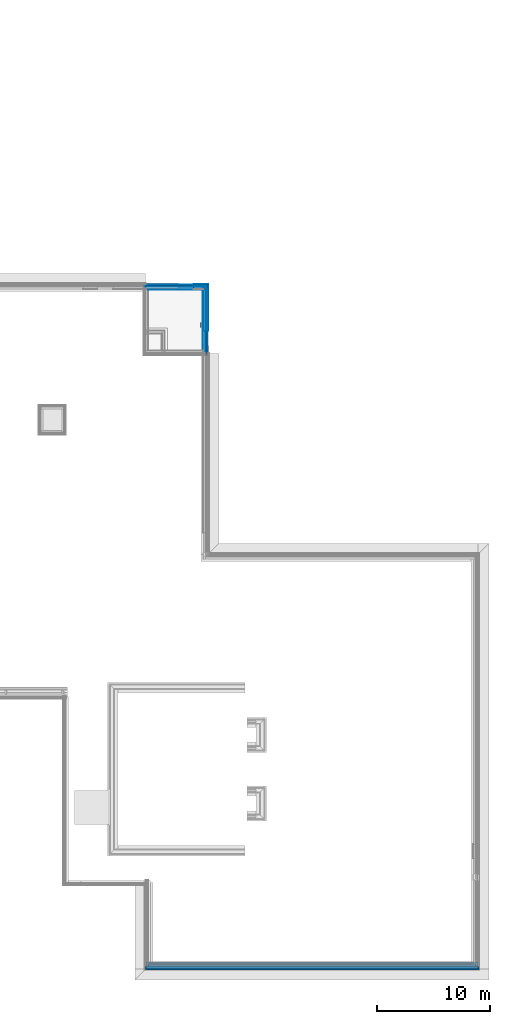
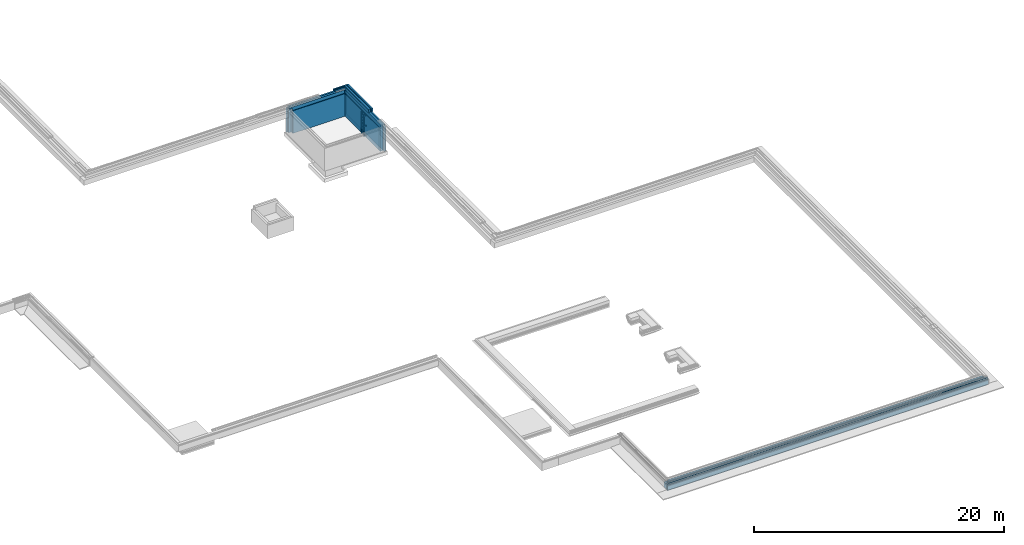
# One storey, part 8 of 17: 29 building element parts, 1 discrete accessory, 5 elements without a shape of their own.
"""IFC2X3 building model written with IfcOpenShell, lengths in millimetres."""

from ifc_helpers import new_model, entity, si_unit, converted_unit, derived_unit, money_unit, direction, frame, origin_with_axes, place, context, subcontext, project, spatial, faceted_brep, material, type_object, element, aggregate, save


model = new_model("IFC2X3")

# Units and contexts
model_context = context("Model", 3, precision=0.01, world=origin_with_axes(), true_north=direction((0.0, 1.0)))
body_context = subcontext(model_context, "Body", "Model", "MODEL_VIEW")
ifc_project = project(units=[si_unit("LENGTHUNIT", "METRE", prefix="MILLI"), si_unit("AREAUNIT", "SQUARE_METRE"), si_unit("VOLUMEUNIT", "CUBIC_METRE"), converted_unit("PLANEANGLEUNIT", "DEGREE", entity("IfcPlaneAngleMeasure", 0.0174532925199), si_unit("PLANEANGLEUNIT", "RADIAN"), dimensions=[0, 0, 0, 0, 0, 0, 0]), money_unit("EUR"), converted_unit("TIMEUNIT", "Year", entity("IfcTimeMeasure", 31556926.0), si_unit("TIMEUNIT", "SECOND"), dimensions=[0, 0, 1, 0, 0, 0, 0]), si_unit("MASSUNIT", "GRAM", prefix="KILO"), si_unit("THERMODYNAMICTEMPERATUREUNIT", "DEGREE_CELSIUS"), si_unit("LUMINOUSINTENSITYUNIT", "LUMEN"), si_unit("ENERGYUNIT", "JOULE", prefix="MEGA"), derived_unit("THERMALCONDUCTANCEUNIT", [(si_unit("POWERUNIT", "WATT"), 1), (si_unit("LENGTHUNIT", "METRE"), -1), (si_unit("THERMODYNAMICTEMPERATUREUNIT", "KELVIN"), -1)]), derived_unit("SPECIFICHEATCAPACITYUNIT", [(si_unit("ENERGYUNIT", "JOULE"), 1), (si_unit("MASSUNIT", "GRAM", prefix="KILO"), -1), (si_unit("THERMODYNAMICTEMPERATUREUNIT", "KELVIN"), -1)]), derived_unit("MASSDENSITYUNIT", [(si_unit("MASSUNIT", "GRAM", prefix="KILO"), 1), (si_unit("VOLUMEUNIT", "CUBIC_METRE"), -1)])], contexts=[model_context])

# Site, building, storey
site_placement = place(None, origin_with_axes())
site = spatial("IfcSite", under=ifc_project, at=site_placement, Name="Kolde pst 67a", CompositionType="ELEMENT")
building_placement = place(site_placement, origin_with_axes())
building = spatial("IfcBuilding", under=site, at=building_placement, Name="Riigigümnaasium", CompositionType="ELEMENT")
storey_placement = place(building_placement, frame((0.0, 0.0, -1500.0), z_axis=(0.0, 0.0, 1.0), x_axis=(1.0, 0.0, 0.0)))
storey = spatial("IfcBuildingStorey", under=building, at=storey_placement, Name="Vundament", CompositionType="ELEMENT", Elevation=-1500.0)

# Discrete accessory
discrete_accessory_type = type_object("IfcDiscreteAccessoryType", Name="Wall Mounted Ladder 25")
discrete_accessory_placement = place(storey_placement, frame((60187.0260771, 57040.02027, -1065.2), z_axis=(0.0, 0.0, 1.0), x_axis=(-1.4546746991e-06, -0.999999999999, 0.0)))
element("IfcDiscreteAccessory", 1, at=discrete_accessory_placement, inside=storey, type_object=discrete_accessory_type, Name="Seinaredel", context=body_context, shape_type="Brep", body=[
    faceted_brep([(270.8, 0.0, 101.6), (270.8, 0.0, 203.2), (270.8, -12.7, 203.2), (270.8, -12.7, 101.6), (220.0, 0.0, 101.6), (220.0, 0.0, 203.2), (220.0, -215.9, 203.2), (232.7, -215.9, 203.2), (232.7, -12.7, 203.2), (232.7, -12.7, 101.6), (232.7, -215.9, 101.6), (220.0, -215.9, 101.6)], [[[0, 1, 2, 3]], [[4, 5, 1, 0]], [[1, 5, 6, 7, 8, 2]], [[3, 2, 8, 9]], [[0, 3, 9, 10, 11, 4]], [[11, 6, 5, 4]], [[10, 7, 6, 11]], [[9, 8, 7, 10]]]),
    faceted_brep([(270.8, 0.0, 1094.6), (270.8, 0.0, 1196.2), (270.8, -12.7, 1196.2), (270.8, -12.7, 1094.6), (220.0, 0.0, 1094.6), (220.0, 0.0, 1196.2), (220.0, -215.9, 1196.2), (232.7, -215.9, 1196.2), (232.7, -12.7, 1196.2), (232.7, -12.7, 1094.6), (232.7, -215.9, 1094.6), (220.0, -215.9, 1094.6)], [[[0, 1, 2, 3]], [[4, 5, 1, 0]], [[1, 5, 6, 7, 8, 2]], [[3, 2, 8, 9]], [[0, 3, 9, 10, 11, 4]], [[11, 6, 5, 4]], [[10, 7, 6, 11]], [[9, 8, 7, 10]]]),
    faceted_brep([(270.8, 0.0, 2087.6), (270.8, 0.0, 2189.2), (270.8, -12.7, 2189.2), (270.8, -12.7, 2087.6), (220.0, 0.0, 2087.6), (220.0, 0.0, 2189.2), (220.0, -215.9, 2189.2), (232.7, -215.9, 2189.2), (232.7, -12.7, 2189.2), (232.7, -12.7, 2087.6), (232.7, -215.9, 2087.6), (220.0, -215.9, 2087.6)], [[[0, 1, 2, 3]], [[4, 5, 1, 0]], [[1, 5, 6, 7, 8, 2]], [[3, 2, 8, 9]], [[0, 3, 9, 10, 11, 4]], [[11, 6, 5, 4]], [[10, 7, 6, 11]], [[9, 8, 7, 10]]]),
    faceted_brep([(-220.0, 0.0, 101.6), (-220.0, 0.0, 203.2), (-220.0, -215.9, 203.2), (-220.0, -215.9, 101.6), (-270.8, 0.0, 101.6), (-270.8, 0.0, 203.2), (-270.8, -12.7, 203.2), (-232.7, -12.7, 203.2), (-232.7, -215.9, 203.2), (-232.7, -215.9, 101.6), (-232.7, -12.7, 101.6), (-270.8, -12.7, 101.6)], [[[0, 1, 2, 3]], [[4, 5, 1, 0]], [[1, 5, 6, 7, 8, 2]], [[3, 2, 8, 9]], [[0, 3, 9, 10, 11, 4]], [[11, 6, 5, 4]], [[10, 7, 6, 11]], [[9, 8, 7, 10]]]),
    faceted_brep([(-220.0, 0.0, 1094.6), (-220.0, 0.0, 1196.2), (-220.0, -215.9, 1196.2), (-220.0, -215.9, 1094.6), (-270.8, 0.0, 1094.6), (-270.8, 0.0, 1196.2), (-270.8, -12.7, 1196.2), (-232.7, -12.7, 1196.2), (-232.7, -215.9, 1196.2), (-232.7, -215.9, 1094.6), (-232.7, -12.7, 1094.6), (-270.8, -12.7, 1094.6)], [[[0, 1, 2, 3]], [[4, 5, 1, 0]], [[1, 5, 6, 7, 8, 2]], [[3, 2, 8, 9]], [[0, 3, 9, 10, 11, 4]], [[11, 6, 5, 4]], [[10, 7, 6, 11]], [[9, 8, 7, 10]]]),
    faceted_brep([(-220.0, 0.0, 2087.6), (-220.0, 0.0, 2189.2), (-220.0, -215.9, 2189.2), (-220.0, -215.9, 2087.6), (-270.8, 0.0, 2087.6), (-270.8, 0.0, 2189.2), (-270.8, -12.7, 2189.2), (-232.7, -12.7, 2189.2), (-232.7, -215.9, 2189.2), (-232.7, -215.9, 2087.6), (-232.7, -12.7, 2087.6), (-270.8, -12.7, 2087.6)], [[[0, 1, 2, 3]], [[4, 5, 1, 0]], [[1, 5, 6, 7, 8, 2]], [[3, 2, 8, 9]], [[0, 3, 9, 10, 11, 4]], [[11, 6, 5, 4]], [[10, 7, 6, 11]], [[9, 8, 7, 10]]]),
    faceted_brep([(220.0, -215.9, 203.2), (220.0, -215.9, 2341.6), (207.3, -215.9, 2341.6), (207.3, -215.9, 203.2), (220.0, -139.7, 203.2), (220.0, -139.7, 2341.6), (207.3, -139.7, 2341.6), (207.3, -139.7, 203.2)], [[[0, 1, 2, 3]], [[4, 5, 1, 0]], [[1, 5, 6, 2]], [[3, 2, 6, 7]], [[0, 3, 7, 4]], [[7, 6, 5, 4]]]),
    faceted_brep([(-220.0, -139.7, 203.2), (-220.0, -139.7, 2341.6), (-207.3, -139.7, 2341.6), (-207.3, -139.7, 203.2), (-220.0, -215.9, 203.2), (-220.0, -215.9, 2341.6), (-207.3, -215.9, 2341.6), (-207.3, -215.9, 203.2)], [[[0, 1, 2, 3]], [[4, 5, 1, 0]], [[1, 5, 6, 2]], [[3, 2, 6, 7]], [[0, 3, 7, 4]], [[7, 6, 5, 4]]]),
    faceted_brep([(-207.3, -196.85, 371.6), (-207.3, -196.85, 401.6), (-207.3, -158.75, 401.6), (-207.3, -158.75, 371.6), (207.3, -196.85, 371.6), (207.3, -196.85, 401.6), (207.3, -158.75, 401.6), (207.3, -158.75, 371.6)], [[[0, 1, 2, 3]], [[4, 5, 1, 0]], [[1, 5, 6, 2]], [[3, 2, 6, 7]], [[0, 3, 7, 4]], [[7, 6, 5, 4]]]),
    faceted_brep([(-207.3, -196.85, 671.6), (-207.3, -196.85, 701.6), (-207.3, -158.75, 701.6), (-207.3, -158.75, 671.6), (207.3, -196.85, 671.6), (207.3, -196.85, 701.6), (207.3, -158.75, 701.6), (207.3, -158.75, 671.6)], [[[0, 1, 2, 3]], [[4, 5, 1, 0]], [[1, 5, 6, 2]], [[3, 2, 6, 7]], [[0, 3, 7, 4]], [[7, 6, 5, 4]]]),
    faceted_brep([(-207.3, -196.85, 971.6), (-207.3, -196.85, 1001.6), (-207.3, -158.75, 1001.6), (-207.3, -158.75, 971.6), (207.3, -196.85, 971.6), (207.3, -196.85, 1001.6), (207.3, -158.75, 1001.6), (207.3, -158.75, 971.6)], [[[0, 1, 2, 3]], [[4, 5, 1, 0]], [[1, 5, 6, 2]], [[3, 2, 6, 7]], [[0, 3, 7, 4]], [[7, 6, 5, 4]]]),
    faceted_brep([(-207.3, -196.85, 1271.6), (-207.3, -196.85, 1301.6), (-207.3, -158.75, 1301.6), (-207.3, -158.75, 1271.6), (207.3, -196.85, 1271.6), (207.3, -196.85, 1301.6), (207.3, -158.75, 1301.6), (207.3, -158.75, 1271.6)], [[[0, 1, 2, 3]], [[4, 5, 1, 0]], [[1, 5, 6, 2]], [[3, 2, 6, 7]], [[0, 3, 7, 4]], [[7, 6, 5, 4]]]),
    faceted_brep([(-207.3, -196.85, 1571.6), (-207.3, -196.85, 1601.6), (-207.3, -158.75, 1601.6), (-207.3, -158.75, 1571.6), (207.3, -196.85, 1571.6), (207.3, -196.85, 1601.6), (207.3, -158.75, 1601.6), (207.3, -158.75, 1571.6)], [[[0, 1, 2, 3]], [[4, 5, 1, 0]], [[1, 5, 6, 2]], [[3, 2, 6, 7]], [[0, 3, 7, 4]], [[7, 6, 5, 4]]]),
    faceted_brep([(-207.3, -196.85, 1871.6), (-207.3, -196.85, 1901.6), (-207.3, -158.75, 1901.6), (-207.3, -158.75, 1871.6), (207.3, -196.85, 1871.6), (207.3, -196.85, 1901.6), (207.3, -158.75, 1901.6), (207.3, -158.75, 1871.6)], [[[0, 1, 2, 3]], [[4, 5, 1, 0]], [[1, 5, 6, 2]], [[3, 2, 6, 7]], [[0, 3, 7, 4]], [[7, 6, 5, 4]]]),
    faceted_brep([(-207.3, -196.85, 2171.6), (-207.3, -196.85, 2201.6), (-207.3, -158.75, 2201.6), (-207.3, -158.75, 2171.6), (207.3, -196.85, 2171.6), (207.3, -196.85, 2201.6), (207.3, -158.75, 2201.6), (207.3, -158.75, 2171.6)], [[[0, 1, 2, 3]], [[4, 5, 1, 0]], [[1, 5, 6, 2]], [[3, 2, 6, 7]], [[0, 3, 7, 4]], [[7, 6, 5, 4]]]),
])

# Wall, building element parts
wall_type_1 = type_object("IfcWallType", Name="Lintvundament 1602 x 765", PredefinedType="NOTDEFINED")
wall_1_placement = place(storey_placement, frame((55370.0096858, 40.0, 1479.99999851), z_axis=(0.0, 0.0, 1.0), x_axis=(1.0, 0.0, 0.0)))
wall_1 = element("IfcWall", 2, at=wall_1_placement, inside=storey, type_object=wall_type_1, Name="Vundament")
ifc_material_1 = material(Name="_KANDETARIND - monoliitne raudbetoon vastavalt EK osale")
building_element_part_1_placement = place(wall_1_placement, origin_with_axes())
building_element_part_1 = element("IfcBuildingElementPart", 3, at=building_element_part_1_placement, material=ifc_material_1, Name="_KANDETARIND - monoliitne raudbetoon vastavalt EK osale", context=body_context, shape_type="Brep", body=[
    faceted_brep([(-200.056688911, -200.057444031, -750.0), (-200.056688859, -200.057444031, -250.000008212), (-200.05743754, 0.0, -250.000004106), (-200.058186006, 200.0, -250.000004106), (-200.058934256, 399.942555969, -250.000008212), (-200.058934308, 399.942555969, -750.0), (29270.0470797, -200.057444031, -750.0), (29270.0470797, -200.057444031, -250.000008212), (29270.0470797, 0.0, -250.000004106), (29270.0470797, 200.0, -250.000004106), (29069.9896421, 200.0, -250.0), (29069.9896421, 0.0, -250.0), (0.0, 0.0, -250.0), (-0.000748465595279, 200.0, -250.0), (29270.0470797, 399.942555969, -250.000008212), (29270.0470797, 399.942555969, -750.0), (29069.9896421, 0.0, 3.12383896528e-07), (29069.9896421, 200.0, 3.12383841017e-07), (0.0, 0.0, -2.22441065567e-06), (-0.000748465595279, 200.0, -2.22441065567e-06)], [[[0, 1, 2, 3, 4, 5]], [[1, 0, 6, 7]], [[2, 1, 7, 8, 9, 10, 11, 12, 13, 3]], [[3, 13, 10, 9, 14, 4]], [[5, 4, 14, 15]], [[0, 5, 15, 6]], [[7, 6, 15, 14, 9, 8]], [[16, 11, 10, 17]], [[12, 11, 16, 18]], [[13, 12, 18, 19]], [[13, 19, 17, 10]], [[19, 18, 16, 17]]]),
])
ifc_material_2 = material(Name="_SOOJUSTUS - ekstrudeeritud polüstüreenist plaadid XPS 250, survetugevus min 250kPa, soojuserijuhtivus λD<0,036 W/(mK), veeimavus alla 0,2%, näiteks XPS 250 foam SL või samaväärne")
building_element_part_2_placement = place(wall_1_placement, origin_with_axes())
building_element_part_2 = element("IfcBuildingElementPart", 4, at=building_element_part_2_placement, material=ifc_material_2, Name="_SOOJUSTUS - ekstrudeeritud polüstüreenist plaadid XPS 250, survetugevus min 250kPa, soojuserijuhtivus λD<0,036 W/(mK), veeimavus alla 0,2%, näiteks XPS 250 foam SL või samaväärne", context=body_context, shape_type="Brep", body=[
    faceted_brep([(-72.9997281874, -73.0000017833, -146.999999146), (-72.9999901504, -3.00000241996, -146.999999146), (29142.9896435, -3.00000241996, -146.999999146), (29142.9896435, -73.0000017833, -146.999999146), (-72.9997281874, -73.0000017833, -2.23078108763e-06), (-72.9999901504, -3.00000241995, -2.23078108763e-06), (29142.9896435, -3.00000241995, -2.23078100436e-06), (29142.9896435, -73.0000017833, -2.23078100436e-06)], [[[0, 1, 2, 3]], [[4, 5, 1, 0]], [[1, 5, 6, 2]], [[7, 3, 2, 6]], [[0, 3, 7, 4]], [[5, 4, 7, 6]]]),
])
ifc_material_3 = material(Name="_SOOJUSTUS - vahtpolüstüreenplaadid EPS 120 Perimeeter, survetugevus min 120kPa, veeimavus <2%, soojuserijuhtivus λD<0,036 W/(mK)")
building_element_part_3_placement = place(wall_1_placement, origin_with_axes())
building_element_part_3 = element("IfcBuildingElementPart", 5, at=building_element_part_3_placement, material=ifc_material_3, Name="_SOOJUSTUS - vahtpolüstüreenplaadid EPS 120 Perimeeter, survetugevus min 120kPa, veeimavus <2%, soojuserijuhtivus λD<0,036 W/(mK)", context=body_context, shape_type="Brep", body=[
    faceted_brep([(-222.99916736, -223.000000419, -146.999999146), (-222.99972871, -73.0000013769, -146.999999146), (29292.9896437, -73.0000013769, -146.999999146), (29292.9896437, -223.000000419, -146.999999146), (-222.999166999, -223.000000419, -1.37334281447e-06), (-222.999728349, -73.0000013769, -1.37334281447e-06), (29292.9896437, -73.0000013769, -1.37334278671e-06), (29292.9896437, -223.000000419, -1.37334278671e-06)], [[[0, 1, 2, 3]], [[0, 4, 5, 1]], [[1, 5, 6, 2]], [[7, 3, 2, 6]], [[4, 0, 3, 7]], [[5, 4, 7, 6]]]),
])
building_element_part_4_placement = place(wall_1_placement, origin_with_axes())
building_element_part_4 = element("IfcBuildingElementPart", 6, at=building_element_part_4_placement, material=ifc_material_3, Name="_SOOJUSTUS - vahtpolüstüreenplaadid EPS 120 Perimeeter, survetugevus min 120kPa, veeimavus <2%, soojuserijuhtivus λD<0,036 W/(mK)", context=body_context, shape_type="Brep", body=[
    faceted_brep([(29373.0470827, -303.057446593, -146.999992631), (29373.0470827, -3.00000241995, -146.999992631), (-303.057429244, -3.00000241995, -146.999992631), (-303.056306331, -303.057446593, -146.999992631), (29373.0470827, -3.00000241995, -247.000001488), (29373.0470827, -303.057446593, -247.000001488), (-303.057429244, -3.00000241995, -247.000001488), (-303.056306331, -303.057446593, -247.000001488)], [[[0, 1, 2, 3]], [[4, 1, 0, 5]], [[1, 4, 6, 2]], [[7, 3, 2, 6]], [[5, 0, 3, 7]], [[4, 5, 7, 6]]]),
])
ifc_material_4 = material(Name="_HÜDROISOLATSIOON - Bituumenvõõp COMBIFLEX-EL vastavalt TL2 nõuetele")
building_element_part_5_placement = place(wall_1_placement, origin_with_axes())
building_element_part_5 = element("IfcBuildingElementPart", 7, at=building_element_part_5_placement, material=ifc_material_4, Name="_HÜDROISOLATSIOON - Bituumenvõõp COMBIFLEX-EL vastavalt TL2 nõuetele", context=body_context, shape_type="Brep", body=[
    faceted_brep([(29072.9896446, -2.99999783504, -3.7612034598e-06), (29072.9896446, 0.0, -3.7612034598e-06), (-3.00000241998, 0.0, -3.7612034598e-06), (-2.999991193, -2.99999783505, -3.7612034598e-06), (29072.9896446, -2.99999783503, -247.000001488), (29072.9896446, 0.0, -247.000001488), (29273.0470862, 0.0, -247.000001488), (29273.0470862, 0.0, -250.000008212), (-203.057444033, 0.0, -250.000008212), (-203.057444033, 0.0, -247.000001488), (-3.00000241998, 0.0, -247.000001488), (-2.999991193, -2.99999783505, -247.000001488), (-203.057432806, -2.99999783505, -247.000001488), (-203.056684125, -203.057435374, -246.99999851), (29273.0470862, -203.057435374, -246.99999851), (29273.0470862, -2.99999783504, -247.000001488), (29273.0470862, -203.057435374, -729.999997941), (29273.0470766, -203.057435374, -750.000015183), (29273.0470766, -200.057437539, -750.000015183), (29273.0470862, -200.057437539, -250.000008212), (-203.056695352, -200.057437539, -250.000008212), (-203.056695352, -200.057437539, -729.999997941), (-203.056684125, -203.057435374, -729.999997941), (-203.056674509, -203.057435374, -750.000015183), (-203.056685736, -200.057437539, -750.000015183)], [[[0, 1, 2, 3]], [[1, 0, 4, 5]], [[1, 5, 6, 7, 8, 9, 10, 2]], [[2, 10, 11, 3]], [[0, 3, 11, 4]], [[11, 10, 9, 12, 13, 14, 15, 6, 5, 4]], [[6, 15, 14, 16, 17, 18, 19, 7]], [[7, 19, 20, 8]], [[20, 21, 22, 13, 12, 9, 8]], [[14, 13, 22, 16]], [[17, 16, 22, 23]], [[18, 17, 23, 24]], [[19, 18, 24, 21, 20]], [[21, 24, 23, 22]]]),
])
ifc_material_5 = material(Name="_TUULETÕKE - sokli krohv, silikoonvaikkrohv Weber.pas 481 AquaBalance 1mm \"scratch\" viimistlus, toon helehall CL444 (S 3502-Y) * 35, SILS süsteem, või samaväärne")
building_element_part_6_placement = place(wall_1_placement, origin_with_axes())
building_element_part_6 = element("IfcBuildingElementPart", 8, at=building_element_part_6_placement, material=ifc_material_5, Name="_TUULETÕKE - sokli krohv, silikoonvaikkrohv Weber.pas 481 AquaBalance 1mm \"scratch\" viimistlus, toon helehall CL444 (S 3502-Y) * 35, SILS süsteem, või samaväärne", context=body_context, shape_type="Brep", body=[
    faceted_brep([(-232.999130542, -233.000001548, -146.999999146), (-232.999167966, -223.000001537, -146.999999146), (29302.9896446, -223.000001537, -146.999999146), (29302.9896446, -233.000001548, -146.999999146), (-232.99914073, -233.000002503, -29.9999875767), (-232.99914073, -233.000001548, 3.32716632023e-07), (-232.999178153, -223.000001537, 3.32716632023e-07), (29302.9896548, -223.000001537, 3.32716632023e-07), (29302.9896548, -233.000001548, 3.32716632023e-07), (29302.9896548, -233.000002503, -29.9999875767)], [[[0, 1, 2, 3]], [[4, 5, 6, 1, 0]], [[1, 6, 7, 2]], [[8, 9, 3, 2, 7]], [[0, 3, 9, 4]], [[5, 4, 9, 8]], [[6, 5, 8, 7]]]),
])
ifc_material_6 = material(Name="_HÜDROISOLATSIOON - tsemendil baseeruv ühekomponentne hüdroisolatsioon hüdroisoleerimiseks sokli krohvi pealt, ülevärvitud silikoonvaikvärviga sokli krohvi tooni, Weber.tec 824 ja Weber.ton 411 AquaBalance toon CL444 (S 3502-Y) * 35 või samaväärne")
building_element_part_7_placement = place(wall_1_placement, origin_with_axes())
building_element_part_7 = element("IfcBuildingElementPart", 9, at=building_element_part_7_placement, material=ifc_material_6, Name="_HÜDROISOLATSIOON - tsemendil baseeruv ühekomponentne hüdroisolatsioon hüdroisoleerimiseks sokli krohvi pealt, ülevärvitud silikoonvaikvärviga sokli krohvi tooni, Weber.tec 824 ja Weber.ton 411 AquaBalance toon CL444 (S 3502-Y) * 35 või samaväärne", context=body_context, shape_type="Brep", body=[
    faceted_brep([(29304.9896356, -234.99999634, -29.9999946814), (29304.9896356, -233.000002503, -29.9999946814), (-234.999121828, -233.000002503, -29.9999946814), (-234.999114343, -234.99999634, -29.9999946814), (29304.9896356, -233.000002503, -146.999992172), (29304.9896356, -234.99999634, -146.999992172), (-234.999121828, -233.000002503, -146.999992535), (-234.999114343, -234.99999634, -146.999992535)], [[[0, 1, 2, 3]], [[4, 1, 0, 5]], [[1, 4, 6, 2]], [[7, 3, 2, 6]], [[5, 0, 3, 7]], [[4, 5, 7, 6]]]),
])
building_element_part_8_placement = place(wall_1_placement, origin_with_axes())
building_element_part_8 = element("IfcBuildingElementPart", 10, at=building_element_part_8_placement, material=ifc_material_3, Name="_SOOJUSTUS - vahtpolüstüreenplaadid EPS 120 Perimeeter, survetugevus min 120kPa, veeimavus <2%, soojuserijuhtivus λD<0,036 W/(mK)", context=body_context, shape_type="Brep", body=[
    faceted_brep([(29373.0470824, -303.057446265, -247.000001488), (29373.0470824, -203.057444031, -247.000001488), (-303.056680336, -203.057444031, -247.000001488), (-303.056306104, -303.057446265, -247.000001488), (29373.0470824, -203.057444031, -629.93015656), (29373.0470824, -303.057446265, -629.93015656), (-303.056680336, -203.057444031, -629.93015656), (-303.056306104, -303.057446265, -633.422236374), (29373.0472062, -303.057446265, -633.422240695)], [[[0, 1, 2, 3]], [[4, 1, 0, 5]], [[1, 4, 6, 2]], [[7, 3, 2, 6]], [[5, 0, 3, 7, 8]], [[4, 5, 8]], [[7, 6, 4, 8]]]),
])
aggregate(wall_1, [building_element_part_1, building_element_part_2, building_element_part_3, building_element_part_4, building_element_part_5, building_element_part_6, building_element_part_7, building_element_part_8])

wall_type_2 = type_object("IfcWallType", Name="VS-RB-20/2_sokkel  443", PredefinedType="NOTDEFINED")
wall_2_placement = place(storey_placement, frame((60439.9941222, 60440.0001843, 1480.0), z_axis=(0.0, 0.0, 1.0), x_axis=(-1.0, 0.0, 0.0)))
wall_2 = element("IfcWall", 11, at=wall_2_placement, inside=storey, type_object=wall_type_2, Name="Sokkel")
ifc_material_7 = material(Name="_KANDETARIND - monteeritav raudbetoon vastavalt EK osale")
building_element_part_9_placement = place(wall_2_placement, origin_with_axes())
building_element_part_9 = element("IfcBuildingElementPart", 12, at=building_element_part_9_placement, material=ifc_material_7, Name="_KANDETARIND - monteeritav raudbetoon vastavalt EK osale", context=body_context, shape_type="Brep", body=[
    faceted_brep([(1057.49980822, 200.0, 0.0), (1057.49980822, 0.0, 0.0), (0.0, 0.0, 0.0), (0.0, 200.0, 0.0), (1057.49980822, 200.0, 120.0), (1057.49980822, 0.0, 120.0), (0.0, 0.0, 120.0), (0.0, 200.0, 120.0)], [[[0, 1, 2, 3]], [[0, 4, 5, 1]], [[1, 5, 6, 2]], [[3, 2, 6, 7]], [[4, 0, 3, 7]], [[5, 4, 7, 6]]]),
])
ifc_material_8 = material(Name="_HÜDROISOLATSIOON - 3x SBS rullmaterjal vastavalt TL2 nõuetele, nakke tugevduseks betoonpind eelnevalt katta hüdroisolatsiooni bituumenvõõbaga")
building_element_part_10_placement = place(wall_2_placement, origin_with_axes())
building_element_part_10 = element("IfcBuildingElementPart", 13, at=building_element_part_10_placement, material=ifc_material_8, Name="_HÜDROISOLATSIOON - 3x SBS rullmaterjal vastavalt TL2 nõuetele, nakke tugevduseks betoonpind eelnevalt katta hüdroisolatsiooni bituumenvõõbaga", context=body_context, shape_type="Brep", body=[
    faceted_brep([(1057.49980822, 0.0, 0.0), (1057.49980822, -3.0, 0.0), (-3.0, -3.0, 0.0), (-3.0, 0.0, 0.0), (1057.49980822, 0.0, 120.0), (1057.49980822, -3.0, 120.0), (-3.0, -3.0, 120.0), (-3.0, 0.0, 120.0)], [[[0, 1, 2, 3]], [[0, 4, 5, 1]], [[1, 5, 6, 2]], [[3, 2, 6, 7]], [[4, 0, 3, 7]], [[5, 4, 7, 6]]]),
])
building_element_part_11_placement = place(wall_2_placement, origin_with_axes())
building_element_part_11 = element("IfcBuildingElementPart", 14, at=building_element_part_11_placement, material=ifc_material_2, Name="_SOOJUSTUS - ekstrudeeritud polüstüreenist plaadid XPS 250, survetugevus min 250kPa, soojuserijuhtivus λD<0,036 W/(mK), veeimavus alla 0,2%, näiteks XPS 250 foam SL või samaväärne", context=body_context, shape_type="Brep", body=[
    faceted_brep([(1057.49980822, -3.0, 0.0), (1057.49980822, -73.0, 0.0), (-73.0, -73.0, 0.0), (-73.0, -3.0, 0.0), (1057.49980822, -3.0, 120.0), (1057.49980822, -73.0, 120.0), (-73.0, -73.0, 120.0), (-73.0, -3.0, 120.0)], [[[0, 1, 2, 3]], [[0, 4, 5, 1]], [[1, 5, 6, 2]], [[3, 2, 6, 7]], [[4, 0, 3, 7]], [[5, 4, 7, 6]]]),
])
building_element_part_12_placement = place(wall_2_placement, origin_with_axes())
building_element_part_12 = element("IfcBuildingElementPart", 15, at=building_element_part_12_placement, material=ifc_material_3, Name="_SOOJUSTUS - vahtpolüstüreenplaadid EPS 120 Perimeeter, survetugevus min 120kPa, veeimavus <2%, soojuserijuhtivus λD<0,036 W/(mK)", context=body_context, shape_type="Brep", body=[
    faceted_brep([(1057.49980822, -73.0, 0.0), (1057.49980822, -223.0, 0.0), (-223.0, -223.0, 0.0), (-223.0, -73.0, 0.0), (1057.49980822, -73.0, 120.0), (1057.49980822, -223.0, 120.0), (-223.0, -223.0, 120.0), (-223.0, -73.0, 120.0)], [[[0, 1, 2, 3]], [[0, 4, 5, 1]], [[1, 5, 6, 2]], [[3, 2, 6, 7]], [[4, 0, 3, 7]], [[5, 4, 7, 6]]]),
])
building_element_part_13_placement = place(wall_2_placement, origin_with_axes())
building_element_part_13 = element("IfcBuildingElementPart", 16, at=building_element_part_13_placement, material=ifc_material_5, Name="_TUULETÕKE - sokli krohv, silikoonvaikkrohv Weber.pas 481 AquaBalance 1mm \"scratch\" viimistlus, toon helehall CL444 (S 3502-Y) * 35, SILS süsteem, või samaväärne", context=body_context, shape_type="Brep", body=[
    faceted_brep([(1057.49980822, -223.0, 0.0), (1057.49980822, -233.0, 0.0), (-233.0, -233.0, 0.0), (-233.0, -223.0, 0.0), (1057.49980822, -223.0, 120.0), (1057.49980822, -233.0, 120.0), (-233.0, -233.0, 120.0), (-233.0, -223.0, 120.0)], [[[0, 1, 2, 3]], [[0, 4, 5, 1]], [[1, 5, 6, 2]], [[3, 2, 6, 7]], [[4, 0, 3, 7]], [[5, 4, 7, 6]]]),
])
aggregate(wall_2, [building_element_part_9, building_element_part_10, building_element_part_11, building_element_part_12, building_element_part_13])

wall_3_placement = place(storey_placement, frame((60439.9941222, 56527.4998418, 1480.0), z_axis=(0.0, 0.0, 1.0), x_axis=(0.0, 1.0, 0.0)))
wall_3 = element("IfcWall", 17, at=wall_3_placement, inside=storey, type_object=wall_type_2, Name="Sokkel")
ifc_material_9 = material(Name="_VIIMISTLUSKIHT - viimistlus vastavalt SA osale")
building_element_part_14_placement = place(wall_3_placement, origin_with_axes())
building_element_part_14 = element("IfcBuildingElementPart", 18, at=building_element_part_14_placement, material=ifc_material_9, Name="_VIIMISTLUSKIHT - viimistlus vastavalt SA osale", context=body_context, shape_type="Brep", body=[
    faceted_brep([(3702.5003425, 200.0, 0.0), (3702.5003425, 200.00000219, 120.0), (3912.5003425, 200.00000219, 120.0), (3912.5003425, 200.00000219, 300.000000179), (0.0, 200.0, 300.0), (0.0, 200.0, 0.0), (3702.5003425, 210.0, 0.0), (3702.5003425, 210.0, 120.0), (3912.5003425, 210.0, 120.0), (3912.5003425, 210.0, 300.000000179), (0.0, 210.0, 300.0), (0.0, 210.0, 0.0)], [[[0, 1, 2, 3, 4, 5]], [[1, 0, 6, 7]], [[2, 1, 7, 8]], [[2, 8, 9, 3]], [[4, 3, 9, 10]], [[4, 10, 11, 5]], [[6, 0, 5, 11]], [[7, 6, 11, 10, 9, 8]]]),
])
building_element_part_15_placement = place(wall_3_placement, origin_with_axes())
building_element_part_15 = element("IfcBuildingElementPart", 19, at=building_element_part_15_placement, material=ifc_material_7, Name="_KANDETARIND - monteeritav raudbetoon vastavalt EK osale", context=body_context, shape_type="Brep", body=[
    faceted_brep([(3712.5003425, 0.0, 0.0), (3712.5003425, -2.08608241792e-07, 120.0), (3912.5003425, -2.08608241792e-07, 120.0), (3912.5003425, -2.08608241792e-07, 300.000000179), (0.0, 0.0, 300.0), (0.0, 0.0, 0.0), (3712.5003425, 200.0, 0.0), (3712.5003425, 200.00000219, 120.0), (3912.5003425, 200.00000219, 120.0), (3912.5003425, 200.00000219, 300.000000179), (0.0, 200.0, 300.0), (0.0, 200.0, 0.0)], [[[0, 1, 2, 3, 4, 5]], [[1, 0, 6, 7]], [[8, 2, 1, 7]], [[2, 8, 9, 3]], [[4, 3, 9, 10]], [[4, 10, 11, 5]], [[6, 0, 5, 11]], [[7, 6, 11, 10, 9, 8]]]),
])
building_element_part_16_placement = place(wall_3_placement, origin_with_axes())
building_element_part_16 = element("IfcBuildingElementPart", 20, at=building_element_part_16_placement, material=ifc_material_8, Name="_HÜDROISOLATSIOON - 3x SBS rullmaterjal vastavalt TL2 nõuetele, nakke tugevduseks betoonpind eelnevalt katta hüdroisolatsiooni bituumenvõõbaga", context=body_context, shape_type="Brep", body=[
    faceted_brep([(3912.5003425, -2.99999999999, 0.0), (3912.5003425, -2.9999975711, 120.0), (3912.5003425, -2.9999975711, 300.000000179), (0.0, -3.0, 300.0), (0.0, -3.0, 0.0), (3912.5003425, 0.0, 0.0), (3912.5003425, -2.08608241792e-07, 120.0), (3912.5003425, -2.08608241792e-07, 300.000000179), (0.0, 0.0, 300.0), (0.0, 0.0, 0.0)], [[[0, 1, 2, 3, 4]], [[1, 0, 5, 6, 7, 2]], [[3, 2, 7, 8]], [[3, 8, 9, 4]], [[5, 0, 4, 9]], [[6, 5, 9, 8, 7]]]),
])
building_element_part_17_placement = place(wall_3_placement, origin_with_axes())
building_element_part_17 = element("IfcBuildingElementPart", 21, at=building_element_part_17_placement, material=ifc_material_2, Name="_SOOJUSTUS - ekstrudeeritud polüstüreenist plaadid XPS 250, survetugevus min 250kPa, soojuserijuhtivus λD<0,036 W/(mK), veeimavus alla 0,2%, näiteks XPS 250 foam SL või samaväärne", context=body_context, shape_type="Brep", body=[
    faceted_brep([(3915.5003425, -73.0, 0.0), (3915.5003425, -73.0, 120.0), (3912.5003425, -73.0, 120.0), (3912.5003425, -73.0, 300.000000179), (0.0, -73.0, 300.0), (0.0, -73.0, 0.0), (3915.5003425, -2.9999975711, 120.0), (3915.5003425, -2.99999999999, 0.0), (3912.5003425, -2.9999975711, 120.0), (3912.5003425, -2.9999975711, 300.000000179), (0.0, -3.0, 300.0), (0.0, -3.0, 0.0)], [[[0, 1, 2, 3, 4, 5]], [[6, 1, 0, 7]], [[1, 6, 8, 2]], [[8, 9, 3, 2]], [[4, 3, 9, 10]], [[4, 10, 11, 5]], [[7, 0, 5, 11]], [[6, 7, 11, 10, 9, 8]]]),
])
building_element_part_18_placement = place(wall_3_placement, origin_with_axes())
building_element_part_18 = element("IfcBuildingElementPart", 22, at=building_element_part_18_placement, material=ifc_material_3, Name="_SOOJUSTUS - vahtpolüstüreenplaadid EPS 120 Perimeeter, survetugevus min 120kPa, veeimavus <2%, soojuserijuhtivus λD<0,036 W/(mK)", context=body_context, shape_type="Brep", body=[
    faceted_brep([(3985.5003425, -223.0, 0.0), (3985.5003425, -223.00000219, 120.0), (3912.5003425, -223.00000219, 120.0), (3912.5003425, -223.00000219, 300.000000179), (0.0, -223.0, 300.0), (0.0, -223.0, 0.0), (3985.5003425, -73.0, 120.0), (3985.5003425, -73.0, 0.0), (3912.5003425, -73.0, 120.0), (3912.5003425, -73.0, 300.000000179), (0.0, -73.0, 300.0), (0.0, -73.0, 0.0)], [[[0, 1, 2, 3, 4, 5]], [[6, 1, 0, 7]], [[1, 6, 8, 2]], [[8, 9, 3, 2]], [[4, 3, 9, 10]], [[4, 10, 11, 5]], [[7, 0, 5, 11]], [[6, 7, 11, 10, 9, 8]]]),
])
building_element_part_19_placement = place(wall_3_placement, origin_with_axes())
building_element_part_19 = element("IfcBuildingElementPart", 23, at=building_element_part_19_placement, material=ifc_material_5, Name="_TUULETÕKE - sokli krohv, silikoonvaikkrohv Weber.pas 481 AquaBalance 1mm \"scratch\" viimistlus, toon helehall CL444 (S 3502-Y) * 35, SILS süsteem, või samaväärne", context=body_context, shape_type="Brep", body=[
    faceted_brep([(4135.5003425, -233.0, 0.0), (4135.5003425, -233.0, 120.0), (3912.5003425, -233.0, 120.0), (3912.5003425, -233.0, 300.000000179), (0.0, -233.0, 300.0), (0.0, -233.0, 0.0), (4135.5003425, -223.00000219, 120.0), (4135.5003425, -223.0, 0.0), (3912.5003425, -223.00000219, 120.0), (3912.5003425, -223.00000219, 300.000000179), (0.0, -223.0, 300.0), (0.0, -223.0, 0.0)], [[[0, 1, 2, 3, 4, 5]], [[6, 1, 0, 7]], [[1, 6, 8, 2]], [[8, 9, 3, 2]], [[4, 3, 9, 10]], [[4, 10, 11, 5]], [[7, 0, 5, 11]], [[6, 7, 11, 10, 9, 8]]]),
])
aggregate(wall_3, [building_element_part_14, building_element_part_15, building_element_part_16, building_element_part_17, building_element_part_18, building_element_part_19])

wall_type_3 = type_object("IfcWallType", Name="VS-RB-25/1_mahuti sein 416", PredefinedType="NOTDEFINED")
wall_4_placement = place(storey_placement, frame((60439.9941222, 60440.0001843, -1065.2), z_axis=(0.0, 0.0, 1.0), x_axis=(0.0, -1.0, 0.0)))
wall_4 = element("IfcWall", 24, at=wall_4_placement, inside=storey, type_object=wall_type_3, Name="Mahuti sein")
ifc_material_10 = material(Name="_ALUSKATE - drenaaži- ja kaitsematt geotekstiiliga soojustuse kaitseks, Interplast Iso-Drain 8 Geo või samaväärne")
building_element_part_20_placement = place(wall_4_placement, origin_with_axes())
building_element_part_20 = element("IfcBuildingElementPart", 25, at=building_element_part_20_placement, material=ifc_material_10, Name="_ALUSKATE - drenaaži- ja kaitsematt geotekstiiliga soojustuse kaitseks, Interplast Iso-Drain 8 Geo või samaväärne", context=body_context, shape_type="Brep", body=[
    faceted_brep([(-163.0, 153.000000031, 2545.19999996), (5920.00012603, 153.000001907, 2545.19999762), (5920.00012603, 163.0, 2545.19999762), (-163.0, 163.0, 2545.19999996), (6083.00011367, 153.000001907, 2400.1), (5920.00012603, 153.000001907, 2400.1), (-163.0, 153.0, 0.0), (6083.00011367, 153.0, 0.0), (5920.00012603, 163.0, 2400.1), (6083.00011367, 163.0, 2400.1), (6083.00011367, 163.0, 0.0), (-163.0, 163.0, 0.0)], [[[0, 1, 2, 3]], [[4, 5, 1, 0, 6, 7]], [[5, 8, 2, 1]], [[2, 8, 9, 10, 11, 3]], [[0, 3, 11, 6]], [[4, 9, 8, 5]], [[11, 10, 7, 6]], [[10, 9, 4, 7]]]),
])
building_element_part_21_placement = place(wall_4_placement, origin_with_axes())
building_element_part_21 = element("IfcBuildingElementPart", 26, at=building_element_part_21_placement, material=ifc_material_2, Name="_SOOJUSTUS - ekstrudeeritud polüstüreenist plaadid XPS 250, survetugevus min 250kPa, soojuserijuhtivus λD<0,036 W/(mK), veeimavus alla 0,2%, näiteks XPS 250 foam SL või samaväärne", context=body_context, shape_type="Brep", body=[
    faceted_brep([(5920.00012603, 2.99999952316, 2400.1), (6073.00012603, 2.99999952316, 2400.1), (6073.00012603, 153.000001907, 2400.1), (5920.00012603, 153.000001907, 2400.1), (-153.0, 3.0, 0.0), (6073.00012603, 3.0, 0.0), (5920.00012603, 2.99999952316, 2545.19999762), (-153.0, 2.99999999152, 2545.19999996), (6073.00012603, 153.0, 0.0), (-153.0, 153.0, 0.0), (-153.0, 153.000000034, 2545.19999996), (5920.00012603, 153.000001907, 2545.19999762)], [[[0, 1, 2, 3]], [[4, 5, 1, 0, 6, 7]], [[5, 8, 2, 1]], [[3, 2, 8, 9, 10, 11]], [[6, 0, 3, 11]], [[9, 8, 5, 4]], [[10, 7, 6, 11]], [[4, 7, 10, 9]]]),
])
ifc_material_11 = material(Name="_HÜDROISOLATSIOON/RADOONITÕKE - eelpaigaldatav elastne hüdroisolatsioonimembraan, värske betooniga nakkuv, radoonitihe, FORSOC PROOFEX 3000 või samaväärne")
building_element_part_22_placement = place(wall_4_placement, origin_with_axes())
building_element_part_22 = element("IfcBuildingElementPart", 27, at=building_element_part_22_placement, material=ifc_material_11, Name="_HÜDROISOLATSIOON/RADOONITÕKE - eelpaigaldatav elastne hüdroisolatsioonimembraan, värske betooniga nakkuv, radoonitihe, FORSOC PROOFEX 3000 või samaväärne", context=body_context, shape_type="Brep", body=[
    faceted_brep([(5920.00012603, -2.38419062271e-06, 2400.1), (5923.00012603, -2.38419062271e-06, 2400.1), (5923.00012603, 2.99999952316, 2400.1), (5920.00012603, 2.99999952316, 2400.1), (-3.0, 0.0, 0.0), (5923.00012603, 0.0, 0.0), (5920.00012603, -2.38419062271e-06, 2545.19999762), (-3.0, -1.00257580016e-07, 2545.1999999), (5923.00012603, 3.0, 0.0), (-3.0, 3.0, 0.0), (-3.0, 2.99999997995, 2545.1999999), (5920.00012603, 2.99999952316, 2545.19999762)], [[[0, 1, 2, 3]], [[4, 5, 1, 0, 6, 7]], [[5, 8, 2, 1]], [[3, 2, 8, 9, 10, 11]], [[6, 0, 3, 11]], [[9, 8, 5, 4]], [[10, 7, 6, 11]], [[4, 7, 10, 9]]]),
])
ifc_material_12 = material(Name="_KANDETARIND - monoliitne raudbetoonplaat")
building_element_part_23_placement = place(wall_4_placement, origin_with_axes())
building_element_part_23 = element("IfcBuildingElementPart", 28, at=building_element_part_23_placement, material=ifc_material_12, Name="_KANDETARIND - monoliitne raudbetoonplaat", context=body_context, shape_type="Brep", body=[
    faceted_brep([(200.0, -249.999999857, 2545.19999982), (200.0, -250.0, 2215.0), (200.0, -200.000035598, 2215.0), (200.0, -200.000035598, 2545.1999999), (0.0, -249.999999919, 2545.1999999), (0.0, -250.0, 0.0), (5920.00012603, -250.0, 0.0), (5920.00012603, -249.99999834, 2215.0), (5920.00012603, -200.000035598, 2215.0), (5920.00012603, -200.000035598, 2545.19999762), (5920.00012603, -2.38419062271e-06, 2545.19999762), (0.0, -1.01415764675e-07, 2545.1999999), (0.0, 0.0, 0.0), (5920.00012603, 0.0, 0.0)], [[[0, 1, 2, 3]], [[1, 0, 4, 5, 6, 7]], [[7, 8, 2, 1]], [[3, 2, 8, 9]], [[3, 9, 10, 11, 4, 0]], [[5, 4, 11, 12]], [[12, 13, 6, 5]], [[8, 7, 6, 13, 10, 9]], [[10, 13, 12, 11]]]),
])
building_element_part_24_placement = place(wall_4_placement, origin_with_axes())
building_element_part_24 = element("IfcBuildingElementPart", 29, at=building_element_part_24_placement, material=ifc_material_11, Name="_HÜDROISOLATSIOON/RADOONITÕKE - eelpaigaldatav elastne hüdroisolatsioonimembraan, värske betooniga nakkuv, radoonitihe, FORSOC PROOFEX 3000 või samaväärne", context=body_context, shape_type="Brep", body=[
    faceted_brep([(250.0, -253.0, 2215.0), (250.0, -249.999999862, 2215.0), (250.0, -250.0, 0.0), (250.0, -253.0, 0.0), (5670.00012603, -249.99999824, 2215.0), (5670.00012603, -253.0, 2215.0), (5670.00012603, -250.0, 0.0), (5670.00012603, -253.0, 0.0)], [[[0, 1, 2, 3]], [[4, 1, 0, 5]], [[1, 4, 6, 2]], [[2, 6, 7, 3]], [[5, 0, 3, 7]], [[4, 5, 7, 6]]]),
])
aggregate(wall_4, [building_element_part_20, building_element_part_21, building_element_part_22, building_element_part_23, building_element_part_24])

wall_5_placement = place(storey_placement, frame((55116.9820755, 60440.0001843, -1065.2), z_axis=(0.0, 0.0, 1.0), x_axis=(1.0, 0.0, 0.0)))
wall_5 = element("IfcWall", 30, at=wall_5_placement, inside=storey, type_object=wall_type_3, Name="Mahuti sein")
building_element_part_25_placement = place(wall_5_placement, origin_with_axes())
building_element_part_25 = element("IfcBuildingElementPart", 31, at=building_element_part_25_placement, material=ifc_material_10, Name="_ALUSKATE - drenaaži- ja kaitsematt geotekstiiliga soojustuse kaitseks, Interplast Iso-Drain 8 Geo või samaväärne", context=body_context, shape_type="Brep", body=[
    faceted_brep([(5476.01204667, 163.0, 0.0), (-153.0, 163.0, 0.0), (-153.0, 163.0, 2400.1), (0.0, 163.0, 2400.1), (0.0, 163.0, 2545.19999762), (5476.01204667, 163.0, 2545.19999995), (5476.01204667, 153.0, 0.0), (-153.0, 153.0, 0.0), (-153.0, 153.000001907, 2400.1), (0.0, 153.000001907, 2400.1), (0.0, 153.000001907, 2545.19999762), (5476.01204667, 153.000000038, 2545.19999995)], [[[0, 1, 2, 3, 4, 5]], [[6, 7, 1, 0]], [[7, 8, 2, 1]], [[3, 2, 8, 9]], [[3, 9, 10, 4]], [[11, 5, 4, 10]], [[6, 0, 5, 11]], [[9, 8, 7, 6, 11, 10]]]),
])
building_element_part_26_placement = place(wall_5_placement, origin_with_axes())
building_element_part_26 = element("IfcBuildingElementPart", 32, at=building_element_part_26_placement, material=ifc_material_2, Name="_SOOJUSTUS - ekstrudeeritud polüstüreenist plaadid XPS 250, survetugevus min 250kPa, soojuserijuhtivus λD<0,036 W/(mK), veeimavus alla 0,2%, näiteks XPS 250 foam SL või samaväärne", context=body_context, shape_type="Brep", body=[
    faceted_brep([(5326.01204667, 153.0, 0.0), (-3.0, 153.0, 0.0), (-3.0, 153.000001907, 2400.1), (0.0, 153.000001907, 2400.1), (0.0, 153.000001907, 2545.19999762), (5326.01204667, 153.000000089, 2545.19999989), (5326.01204667, 3.0, 0.0), (-3.0, 3.0, 0.0), (-3.0, 2.99999952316, 2400.1), (0.0, 2.99999952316, 2400.1), (0.0, 2.99999952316, 2545.19999762), (5326.01204667, 2.99999997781, 2545.19999989)], [[[0, 1, 2, 3, 4, 5]], [[6, 7, 1, 0]], [[7, 8, 2, 1]], [[3, 2, 8, 9]], [[3, 9, 10, 4]], [[11, 5, 4, 10]], [[6, 0, 5, 11]], [[9, 8, 7, 6, 11, 10]]]),
])
building_element_part_27_placement = place(wall_5_placement, origin_with_axes())
building_element_part_27 = element("IfcBuildingElementPart", 33, at=building_element_part_27_placement, material=ifc_material_11, Name="_HÜDROISOLATSIOON/RADOONITÕKE - eelpaigaldatav elastne hüdroisolatsioonimembraan, värske betooniga nakkuv, radoonitihe, FORSOC PROOFEX 3000 või samaväärne", context=body_context, shape_type="Brep", body=[
    faceted_brep([(5323.01204667, 3.0, 0.0), (0.0, 3.0, 0.0), (0.0, 2.99999952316, 2545.19999762), (5323.01204667, 2.99999997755, 2545.19999989), (5323.01204667, 0.0, 0.0), (0.0, 0.0, 0.0), (0.0, -2.38419062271e-06, 2545.19999762), (5323.01204667, -1.12251541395e-07, 2545.19999989)], [[[0, 1, 2, 3]], [[4, 5, 1, 0]], [[2, 1, 5, 6]], [[7, 3, 2, 6]], [[4, 0, 3, 7]], [[6, 5, 4, 7]]]),
])
building_element_part_28_placement = place(wall_5_placement, origin_with_axes())
building_element_part_28 = element("IfcBuildingElementPart", 34, at=building_element_part_28_placement, material=ifc_material_12, Name="_KANDETARIND - monoliitne raudbetoonplaat", context=body_context, shape_type="Brep", body=[
    faceted_brep([(0.0, -200.0, 2545.19999762), (0.0, -200.0, 2400.1), (250.0, -200.0, 2400.1), (250.0, -200.0, 2215.0), (5073.01204667, -200.0, 2215.0), (5073.01204667, -200.0, 2545.19999978), (0.0, -2.38419062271e-06, 2545.19999762), (0.0, -2.38419062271e-06, 2400.1), (250.0, -2.38419062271e-06, 2400.1), (250.0, 0.0, 0.0), (250.0, -250.0, 0.0), (250.0, -249.99999824, 2215.0), (5073.01204667, -249.999999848, 2215.0), (5073.01204667, -250.0, 0.0), (5073.01204667, 0.0, 0.0), (5073.01204667, -2.18953744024e-07, 2545.19999978)], [[[0, 1, 2, 3, 4, 5]], [[1, 0, 6, 7]], [[2, 1, 7, 8]], [[3, 2, 8, 9, 10, 11]], [[12, 4, 3, 11]], [[4, 12, 13, 14, 15, 5]], [[0, 5, 15, 6]], [[9, 8, 7, 6, 15, 14]], [[13, 10, 9, 14]], [[12, 11, 10, 13]]]),
])
building_element_part_29_placement = place(wall_5_placement, origin_with_axes())
building_element_part_29 = element("IfcBuildingElementPart", 35, at=building_element_part_29_placement, material=ifc_material_11, Name="_HÜDROISOLATSIOON/RADOONITÕKE - eelpaigaldatav elastne hüdroisolatsioonimembraan, värske betooniga nakkuv, radoonitihe, FORSOC PROOFEX 3000 või samaväärne", context=body_context, shape_type="Brep", body=[
    faceted_brep([(253.0, -249.99999824, 2215.0), (5070.01204667, -249.999999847, 2215.0), (5070.01204667, -250.0, 0.0), (253.0, -250.0, 0.0), (5070.01204667, -253.0, 2215.0), (253.0, -253.0, 2215.0), (5070.01204667, -253.0, 0.0), (253.0, -253.0, 0.0)], [[[0, 1, 2, 3]], [[4, 1, 0, 5]], [[1, 4, 6, 2]], [[6, 7, 3, 2]], [[5, 0, 3, 7]], [[4, 5, 7, 6]]]),
])
aggregate(wall_5, [building_element_part_25, building_element_part_26, building_element_part_27, building_element_part_28, building_element_part_29])

save(model, "model.ifc")
